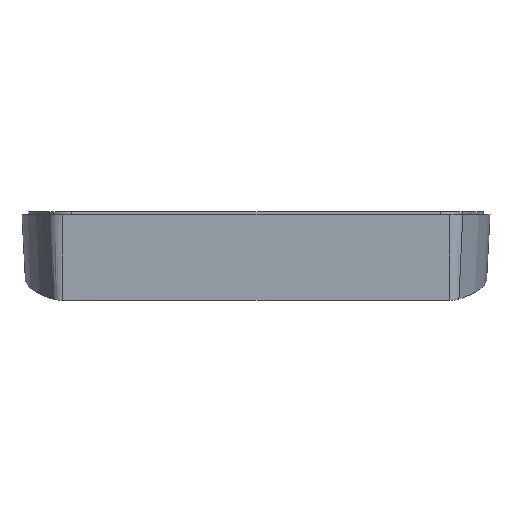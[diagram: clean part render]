
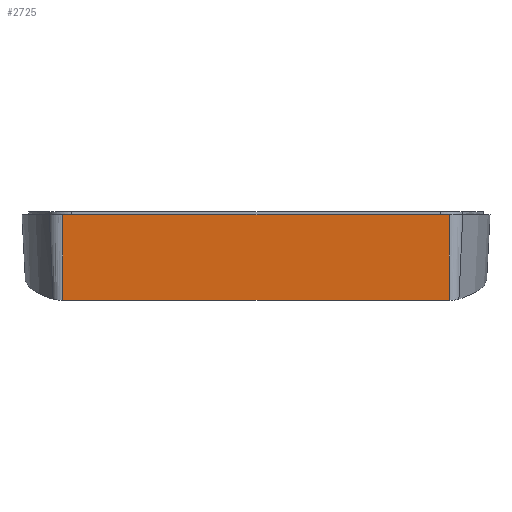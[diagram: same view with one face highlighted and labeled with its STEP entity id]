
A CAD part, top view. The second image highlights one B-rep face of the part: STEP entity #2725.
In plain terms, the highlighted planar face has unit normal (0, -0.052, 0.999) as drawn and (0.052, 0.998, 0.028) by its records, which use the part's own axes.
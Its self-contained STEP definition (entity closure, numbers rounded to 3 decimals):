
#56 = VERTEX_POINT ( 'NONE', #585 ) ;
#210 = EDGE_CURVE ( 'NONE', #540, #1540, #2862, .T. ) ;
#262 = EDGE_CURVE ( 'NONE', #1075, #56, #1120, .T. ) ;
#279 = CARTESIAN_POINT ( 'NONE',  ( 717.894, -240.114, 174.837 ) ) ;
#283 = LINE ( 'NONE', #2746, #2022 ) ;
#540 = VERTEX_POINT ( 'NONE', #705 ) ;
#585 = CARTESIAN_POINT ( 'NONE',  ( 746.095, -241.585, 174.743 ) ) ;
#705 = CARTESIAN_POINT ( 'NONE',  ( 718.133, -243.697, 302.312 ) ) ;
#730 = ORIENTED_EDGE ( 'NONE', *, *, #2207, .T. ) ;
#1061 = LINE ( 'NONE', #1274, #2548 ) ;
#1075 = VERTEX_POINT ( 'NONE', #1184 ) ;
#1105 = DIRECTION ( 'NONE',  ( -0.002, 0.028, -1. ) ) ;
#1111 = DIRECTION ( 'NONE',  ( 0.999, -0.052, -0.003 ) ) ;
#1120 = LINE ( 'NONE', #3731, #3375 ) ;
#1184 = CARTESIAN_POINT ( 'NONE',  ( 746.334, -245.168, 302.218 ) ) ;
#1274 = CARTESIAN_POINT ( 'NONE',  ( 732.001, -240.85, 174.79 ) ) ;
#1360 = FACE_OUTER_BOUND ( 'NONE', #3355, .T. ) ;
#1504 = DIRECTION ( 'NONE',  ( 0.052, 0.998, 0.028 ) ) ;
#1540 = VERTEX_POINT ( 'NONE', #279 ) ;
#1668 = VECTOR ( 'NONE', #1998, 1000. ) ;
#1680 = EDGE_CURVE ( 'NONE', #1540, #56, #1061, .T. ) ;
#1998 = DIRECTION ( 'NONE',  ( -0.002, 0.028, -1. ) ) ;
#2022 = VECTOR ( 'NONE', #1111, 1000. ) ;
#2207 = EDGE_CURVE ( 'NONE', #540, #1075, #283, .T. ) ;
#2468 = PLANE ( 'NONE',  #3480 ) ;
#2480 = ORIENTED_EDGE ( 'NONE', *, *, #262, .T. ) ;
#2548 = VECTOR ( 'NONE', #2611, 1000. ) ;
#2611 = DIRECTION ( 'NONE',  ( 0.999, -0.052, -0.003 ) ) ;
#2725 = ADVANCED_FACE ( 'NONE', ( #1360 ), #2468, .T. ) ;
#2746 = CARTESIAN_POINT ( 'NONE',  ( 732.234, -244.432, 302.265 ) ) ;
#2862 = LINE ( 'NONE', #3701, #1668 ) ;
#3355 = EDGE_LOOP ( 'NONE', ( #730, #2480, #3746, #4052 ) ) ;
#3375 = VECTOR ( 'NONE', #1105, 1000. ) ;
#3472 = CARTESIAN_POINT ( 'NONE',  ( 746.334, -245.168, 302.218 ) ) ;
#3480 = AXIS2_PLACEMENT_3D ( 'NONE', #3472, #1504, #4134 ) ;
#3701 = CARTESIAN_POINT ( 'NONE',  ( 718.133, -243.697, 302.312 ) ) ;
#3731 = CARTESIAN_POINT ( 'NONE',  ( 746.214, -243.377, 238.481 ) ) ;
#3746 = ORIENTED_EDGE ( 'NONE', *, *, #1680, .F. ) ;
#4052 = ORIENTED_EDGE ( 'NONE', *, *, #210, .F. ) ;
#4134 = DIRECTION ( 'NONE',  ( -0.002, 0.028, -1. ) ) ;
